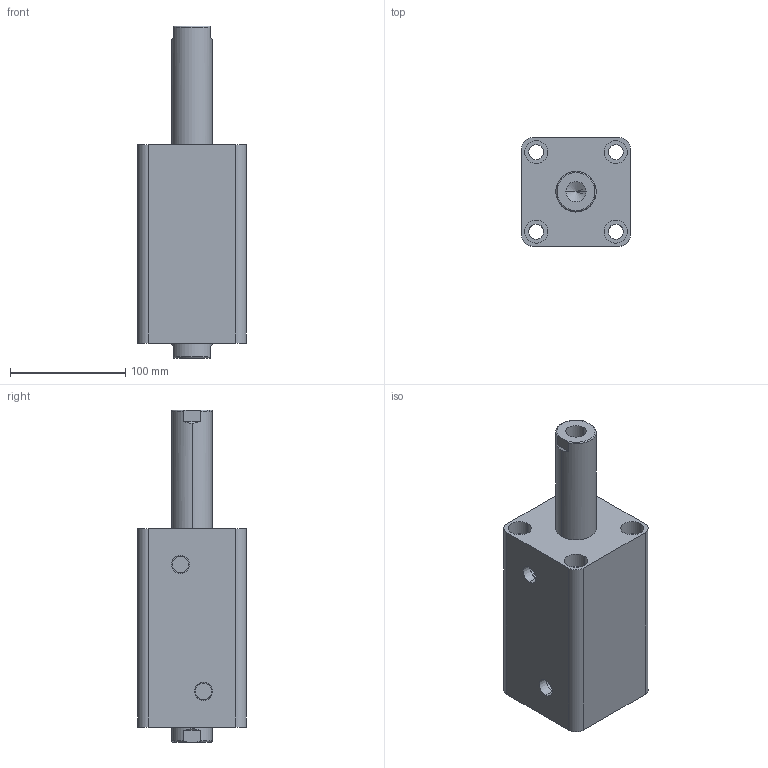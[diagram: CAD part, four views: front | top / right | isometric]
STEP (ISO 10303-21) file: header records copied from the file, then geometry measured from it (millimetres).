
FILE_DESCRIPTION (( 'STEP AP203' ), '1' );
FILE_NAME ('HTB-SW63-90N.STEP', '2019-10-07T10:08:51', ( '微软用户' ), ( '微软中国' ), 'SwSTEP 2.0', 'SolidWorks 2012', '' );
FILE_SCHEMA (( 'CONFIG_CONTROL_DESIGN' ));
Length unit declared in the file: millimetre
Products named in the file (3): HTB-SW63-90N; HTB-SW63-90N活塞杆; HTB-SW63-90掛极
Assembly tree (2 placements, depth 2):
  HTB-SW63-90N
    HTB-SW63-90掛极
    HTB-SW63-90N活塞杆
Bounding box: 94 x 94 x 288 mm (x, y, z)
Volume: 1300481.2 mm3; surface area: 182353.7 mm2
Topology: 2 solids, 2 shells, 100 faces, 228 edges, 146 vertices
Faces by surface type: cylinder 48, plane 32, torus 12, cone 8
Entity records: 3253 total; most frequent: CARTESIAN_POINT 611, DIRECTION 542, ORIENTED_EDGE 448, AXIS2_PLACEMENT_3D 229, EDGE_CURVE 224, VERTEX_POINT 146, EDGE_LOOP 128, CIRCLE 124
